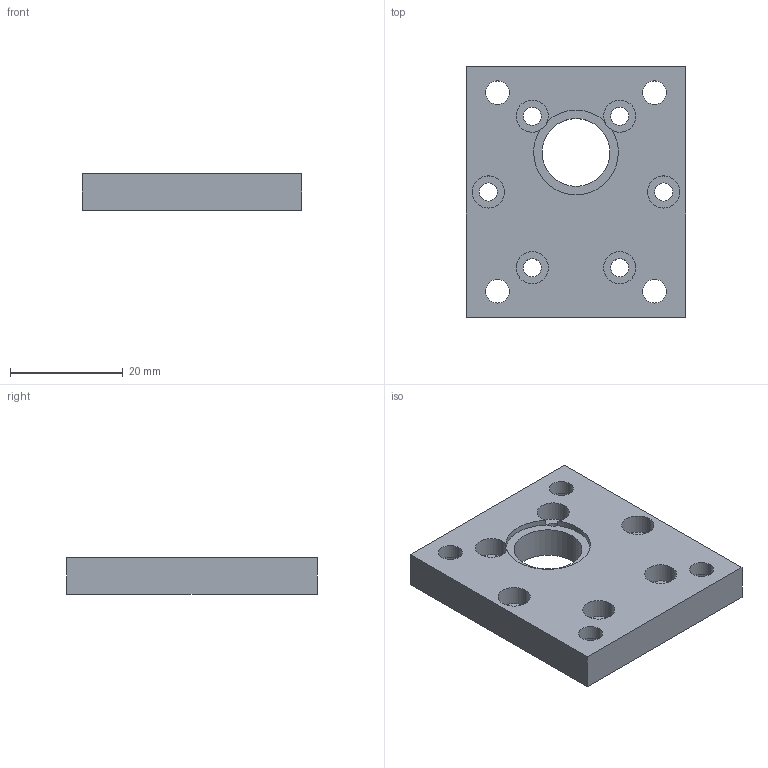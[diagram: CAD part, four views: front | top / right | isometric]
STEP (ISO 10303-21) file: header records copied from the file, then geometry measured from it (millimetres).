
FILE_DESCRIPTION(/* description */ ('VariCAD 2010-3.03 AP-214'),/* implementation_level */ '2;1');
FILE_NAME(/* name */ '0353-22-15',/* time_stamp */ '2011-06-28T23:01:43-06:00',/* author */ (''),/* organization */ (''),/* preprocessor_version */ 'ST-DEVELOPER v12',/* originating_system */ 'VariCAD 2010-3.03; kernel version (20100102)',/* authorisation */ '');
FILE_SCHEMA (('AUTOMOTIVE_DESIGN'));
Length unit declared in the file: millimetre
Products named in the file (1): Part
Bounding box: 38.8 x 44.33 x 6.5 mm (x, y, z)
Volume: 8911.8 mm3; surface area: 5383.9 mm2
Topology: 1 solids, 1 shells, 63 faces, 156 edges, 104 vertices
Faces by surface type: cylinder 46, plane 17
Entity records: 1997 total; most frequent: DIRECTION 382, CARTESIAN_POINT 325, ORIENTED_EDGE 312, AXIS2_PLACEMENT_3D 161, EDGE_CURVE 156, VERTEX_POINT 104, CIRCLE 96, EDGE_LOOP 94
